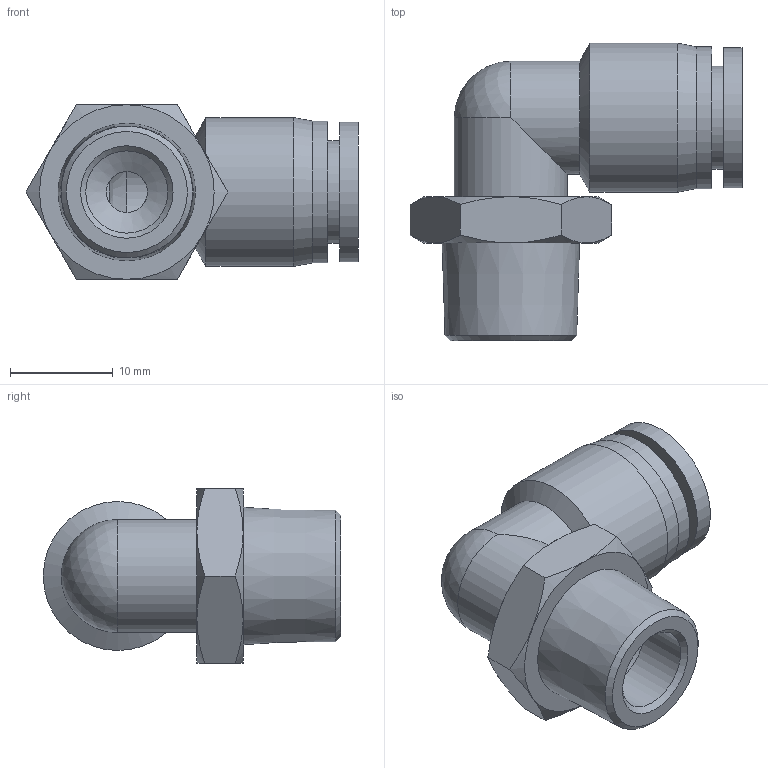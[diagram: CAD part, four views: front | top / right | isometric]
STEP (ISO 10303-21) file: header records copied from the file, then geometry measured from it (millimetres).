
FILE_DESCRIPTION((''),'2;1');
FILE_NAME('S:\UTecnico\ArchivioUT\Speciali Clienti\Speciali KONFIT\Plastica\RP\RP 72K\RP72K1408.stp','2012-05-18T14:37:17',('UT5'),(''),'Autodesk Inventor 2012','Autodesk Inventor 2012','');
FILE_SCHEMA(('AUTOMOTIVE_DESIGN { 1 0 10303 214 1 1 1 1 }'));
Length unit declared in the file: millimetre
Products named in the file (1): RP72K1408
Bounding box: 32.31 x 28.95 x 17 mm (x, y, z)
Volume: 4479.6 mm3; surface area: 3329.5 mm2
Topology: 1 solids, 1 shells, 41 faces, 88 edges, 53 vertices
Faces by surface type: cone 19, plane 12, cylinder 9, sphere 1
Full cylindrical faces by diameter (mm): 4 x1, 8 x2, 10 x1, 11 x2, 13.6 x1, 13.8 x1, 14.5 x1
Entity records: 1029 total; most frequent: CARTESIAN_POINT 223, DIRECTION 164, ORIENTED_EDGE 136, AXIS2_PLACEMENT_3D 79, EDGE_CURVE 68, EDGE_LOOP 62, VERTEX_POINT 48, FACE_OUTER_BOUND 41
